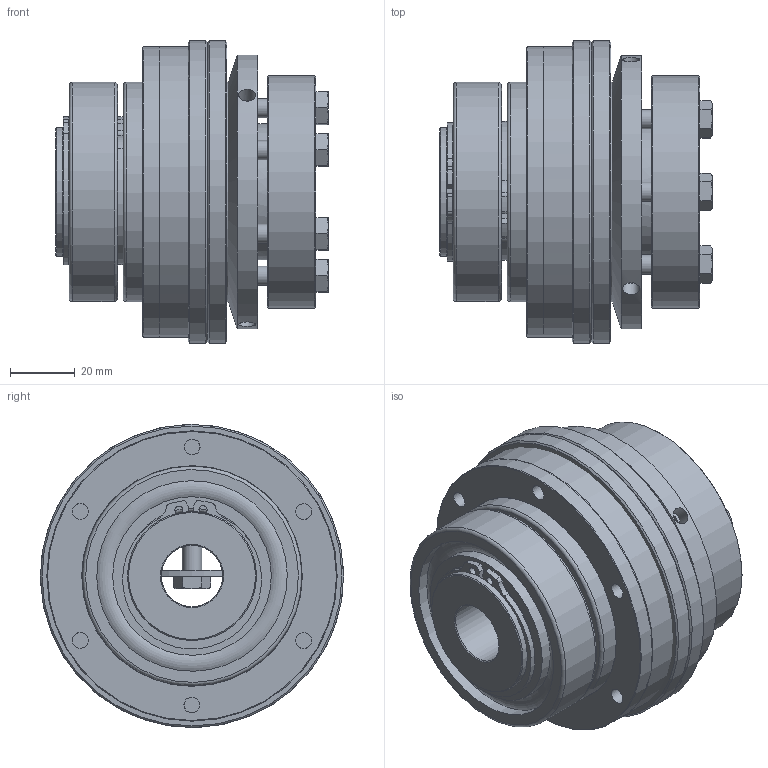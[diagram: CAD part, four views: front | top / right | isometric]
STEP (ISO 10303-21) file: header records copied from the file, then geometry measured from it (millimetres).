
FILE_DESCRIPTION( ( 'Unknown' ), '1' );
FILE_NAME( 'C:/Dokumente und Einstellungen/Sven/Desktop/hp kbk/KBK LL-A-150.stp', 'Unknown', ( 'Unknown' ), ( 'Unknown' ), 'XStep 1.0', 'Unknown', ' ' );
FILE_SCHEMA( ( 'automotive_design' ) );
Length unit declared in the file: millimetre
Products named in the file (12): Assem1; Assem2; ball_bearing_-_6008_0_01; ball_bearing_-_6008_0_02; ball_bearing_-_6008_0_03; Stellring 80; Druckring 80; a_40; Druckring L-A-80; din_en_24017_m6x25; KBK LL-A-80 Grundkörper; Flansch 80
Bounding box: 84.5 x 94 x 94 mm (x, y, z)
Volume: 617113.8 mm3; surface area: 237642.1 mm2
Topology: 32 solids, 32 shells, 532 faces, 1126 edges, 719 vertices
Faces by surface type: plane 215, cylinder 160, cone 118, torus 39
Full cylindrical faces by diameter (mm): 2.5 x6, 3.242 x6, 4.917 x24, 5 x8, 5.2 x6, 6 x7, 6.6 x12, 8.8 x7, 19 x2, 37.5 x4, 40 x10, 42.29 x2, 49.2 x8, 59.1 x8, 61 x2, 62 x4, 68 x6, 70 x2, 72 x2, 85 x2, 87 x2, 90 x4, 94 x2
Entity records: 5227 total; most frequent: CARTESIAN_POINT 1141, DIRECTION 848, ORIENTED_EDGE 546, AXIS2_PLACEMENT_3D 396, EDGE_LOOP 340, EDGE_CURVE 273, FACE_OUTER_BOUND 250, VERTEX_POINT 225
